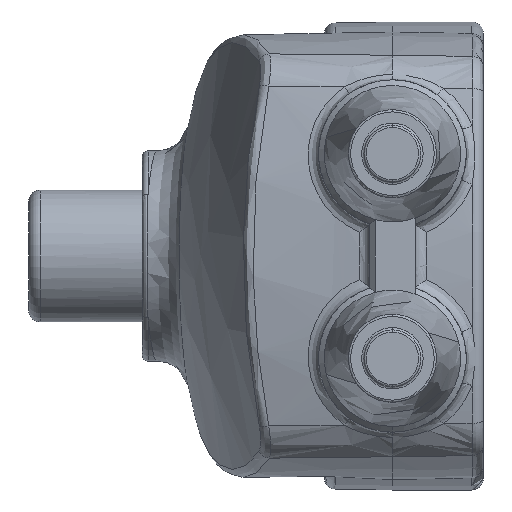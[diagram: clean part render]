
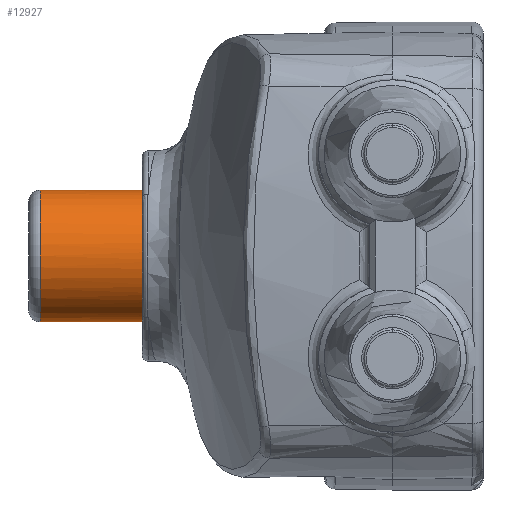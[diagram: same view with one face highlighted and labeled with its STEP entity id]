
A CAD part, left-side view. The second image highlights one B-rep face of the part: STEP entity #12927.
In plain terms, the highlighted cylindrical face has radius 5.8 mm (diameter 11.6 mm), a partial arc.
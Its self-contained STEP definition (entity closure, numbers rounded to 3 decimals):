
#16 = EDGE_CURVE ( 'NONE', #3356, #3355, #4988, .T. ) ;
#3351 = VERTEX_POINT ( 'NONE', #12373 ) ;
#3352 = VERTEX_POINT ( 'NONE', #12374 ) ;
#3355 = VERTEX_POINT ( 'NONE', #12377 ) ;
#3356 = VERTEX_POINT ( 'NONE', #12378 ) ;
#3867 = CARTESIAN_POINT ( 'NONE',  ( 10., -500000., -5.8 ) ) ;
#3885 = DIRECTION ( 'NONE',  ( 0., 1., 0. ) ) ;
#3929 = CARTESIAN_POINT ( 'NONE',  ( 10., -500000., 5.8 ) ) ;
#3930 = DIRECTION ( 'NONE',  ( 0., 1., 0. ) ) ;
#4830 = EDGE_CURVE ( 'NONE', #3352, #3351, #13792, .T. ) ;
#4988 = B_SPLINE_CURVE_WITH_KNOTS ( 'NONE', 3,
 ( #12216, #12221, #12222, #12223, #12224, #12225, #12226, #12227, #12228, #12229, #12230, #12231, #12232, #12233, #12234, #12235, #12236, #12237, #12238, #12239, #12240, #12241, #12242, #12243, #12244, #12245, #12246, #12247, #12248, #12249, #12250, #12251, #12252, #12253, #12254, #12255, #12256, #12257, #12258, #12259, #12260, #12261 ),
 .UNSPECIFIED., .F., .F.,
 ( 4, 2, 2, 2, 2, 2, 2, 2, 2, 2, 2, 2, 2, 2, 2, 2, 2, 2, 2, 2, 4 ),
 ( 0.018, 0.019, 0.02, 0.02, 0.022, 0.023, 0.024, 0.025, 0.026, 0.026, 0.027, 0.028, 0.029, 0.029, 0.031, 0.032, 0.033, 0.033, 0.034, 0.035, 0.036 ),
 .UNSPECIFIED. ) ;
#5862 = EDGE_LOOP ( 'NONE', ( #6211, #6209, #6207, #6202 ) ) ;
#6202 = ORIENTED_EDGE ( 'NONE', *, *, #4830, .T. ) ;
#6207 = ORIENTED_EDGE ( 'NONE', *, *, #12001, .T. ) ;
#6209 = ORIENTED_EDGE ( 'NONE', *, *, #16, .T. ) ;
#6211 = ORIENTED_EDGE ( 'NONE', *, *, #11999, .F. ) ;
#7143 = VECTOR ( 'NONE', #3885, 1000. ) ;
#7145 = VECTOR ( 'NONE', #3930, 1000. ) ;
#7149 = LINE ( 'NONE', #3929, #7145 ) ;
#7157 = LINE ( 'NONE', #3867, #7143 ) ;
#7367 = FACE_OUTER_BOUND ( 'NONE', #5862, .T. ) ;
#7368 = CYLINDRICAL_SURFACE ( 'NONE', #7663, 5.8 ) ;
#7663 = AXIS2_PLACEMENT_3D ( 'NONE', #15485, #15468, #15470 ) ;
#7738 = CARTESIAN_POINT ( 'NONE',  ( 10., 39., 0. ) ) ;
#7739 = DIRECTION ( 'NONE',  ( 0., -1., 0. ) ) ;
#7740 = DIRECTION ( 'NONE',  ( 0., 0., 1. ) ) ;
#11999 = EDGE_CURVE ( 'NONE', #3356, #3351, #7157, .T. ) ;
#12001 = EDGE_CURVE ( 'NONE', #3355, #3352, #7149, .T. ) ;
#12156 = AXIS2_PLACEMENT_3D ( 'NONE', #7738, #7739, #7740 ) ;
#12216 = CARTESIAN_POINT ( 'NONE',  ( 10., 26.64, -5.8 ) ) ;
#12221 = CARTESIAN_POINT ( 'NONE',  ( 9.622, 26.663, -5.8 ) ) ;
#12222 = CARTESIAN_POINT ( 'NONE',  ( 9.246, 26.687, -5.763 ) ) ;
#12223 = CARTESIAN_POINT ( 'NONE',  ( 8.686, 26.724, -5.652 ) ) ;
#12224 = CARTESIAN_POINT ( 'NONE',  ( 8.499, 26.737, -5.606 ) ) ;
#12225 = CARTESIAN_POINT ( 'NONE',  ( 8.136, 26.761, -5.496 ) ) ;
#12226 = CARTESIAN_POINT ( 'NONE',  ( 7.958, 26.774, -5.432 ) ) ;
#12227 = CARTESIAN_POINT ( 'NONE',  ( 7.435, 26.81, -5.216 ) ) ;
#12228 = CARTESIAN_POINT ( 'NONE',  ( 7.099, 26.834, -5.037 ) ) ;
#12229 = CARTESIAN_POINT ( 'NONE',  ( 6.464, 26.881, -4.613 ) ) ;
#12230 = CARTESIAN_POINT ( 'NONE',  ( 6.172, 26.903, -4.373 ) ) ;
#12231 = CARTESIAN_POINT ( 'NONE',  ( 5.636, 26.945, -3.839 ) ) ;
#12232 = CARTESIAN_POINT ( 'NONE',  ( 5.391, 26.964, -3.542 ) ) ;
#12233 = CARTESIAN_POINT ( 'NONE',  ( 4.969, 26.998, -2.911 ) ) ;
#12234 = CARTESIAN_POINT ( 'NONE',  ( 4.79, 27.012, -2.578 ) ) ;
#12235 = CARTESIAN_POINT ( 'NONE',  ( 4.572, 27.03, -2.052 ) ) ;
#12236 = CARTESIAN_POINT ( 'NONE',  ( 4.507, 27.036, -1.871 ) ) ;
#12237 = CARTESIAN_POINT ( 'NONE',  ( 4.396, 27.045, -1.506 ) ) ;
#12238 = CARTESIAN_POINT ( 'NONE',  ( 4.349, 27.049, -1.322 ) ) ;
#12239 = CARTESIAN_POINT ( 'NONE',  ( 4.238, 27.058, -0.765 ) ) ;
#12240 = CARTESIAN_POINT ( 'NONE',  ( 4.2, 27.062, -0.388 ) ) ;
#12241 = CARTESIAN_POINT ( 'NONE',  ( 4.2, 27.062, 0.378 ) ) ;
#12242 = CARTESIAN_POINT ( 'NONE',  ( 4.237, 27.058, 0.757 ) ) ;
#12243 = CARTESIAN_POINT ( 'NONE',  ( 4.347, 27.049, 1.313 ) ) ;
#12244 = CARTESIAN_POINT ( 'NONE',  ( 4.393, 27.045, 1.497 ) ) ;
#12245 = CARTESIAN_POINT ( 'NONE',  ( 4.503, 27.036, 1.861 ) ) ;
#12246 = CARTESIAN_POINT ( 'NONE',  ( 4.568, 27.031, 2.043 ) ) ;
#12247 = CARTESIAN_POINT ( 'NONE',  ( 4.787, 27.013, 2.571 ) ) ;
#12248 = CARTESIAN_POINT ( 'NONE',  ( 4.965, 26.998, 2.904 ) ) ;
#12249 = CARTESIAN_POINT ( 'NONE',  ( 5.386, 26.964, 3.534 ) ) ;
#12250 = CARTESIAN_POINT ( 'NONE',  ( 5.63, 26.945, 3.833 ) ) ;
#12251 = CARTESIAN_POINT ( 'NONE',  ( 6.166, 26.904, 4.368 ) ) ;
#12252 = CARTESIAN_POINT ( 'NONE',  ( 6.457, 26.882, 4.608 ) ) ;
#12253 = CARTESIAN_POINT ( 'NONE',  ( 6.932, 26.847, 4.926 ) ) ;
#12254 = CARTESIAN_POINT ( 'NONE',  ( 7.097, 26.835, 5.025 ) ) ;
#12255 = CARTESIAN_POINT ( 'NONE',  ( 7.431, 26.811, 5.204 ) ) ;
#12256 = CARTESIAN_POINT ( 'NONE',  ( 7.602, 26.798, 5.285 ) ) ;
#12257 = CARTESIAN_POINT ( 'NONE',  ( 8.125, 26.762, 5.502 ) ) ;
#12258 = CARTESIAN_POINT ( 'NONE',  ( 8.489, 26.737, 5.613 ) ) ;
#12259 = CARTESIAN_POINT ( 'NONE',  ( 9.238, 26.688, 5.762 ) ) ;
#12260 = CARTESIAN_POINT ( 'NONE',  ( 9.617, 26.663, 5.8 ) ) ;
#12261 = CARTESIAN_POINT ( 'NONE',  ( 10., 26.64, 5.8 ) ) ;
#12373 = CARTESIAN_POINT ( 'NONE',  ( 10., 39., -5.8 ) ) ;
#12374 = CARTESIAN_POINT ( 'NONE',  ( 10., 39., 5.8 ) ) ;
#12377 = CARTESIAN_POINT ( 'NONE',  ( 10., 26.64, 5.8 ) ) ;
#12378 = CARTESIAN_POINT ( 'NONE',  ( 10., 26.64, -5.8 ) ) ;
#12927 = ADVANCED_FACE ( 'NONE', ( #7367 ), #7368, .T. ) ;
#13792 = CIRCLE ( 'NONE', #12156, 5.8 ) ;
#15468 = DIRECTION ( 'NONE',  ( 0., 1., 0. ) ) ;
#15470 = DIRECTION ( 'NONE',  ( 0., 0., 1. ) ) ;
#15485 = CARTESIAN_POINT ( 'NONE',  ( 10., -500000., 0. ) ) ;
